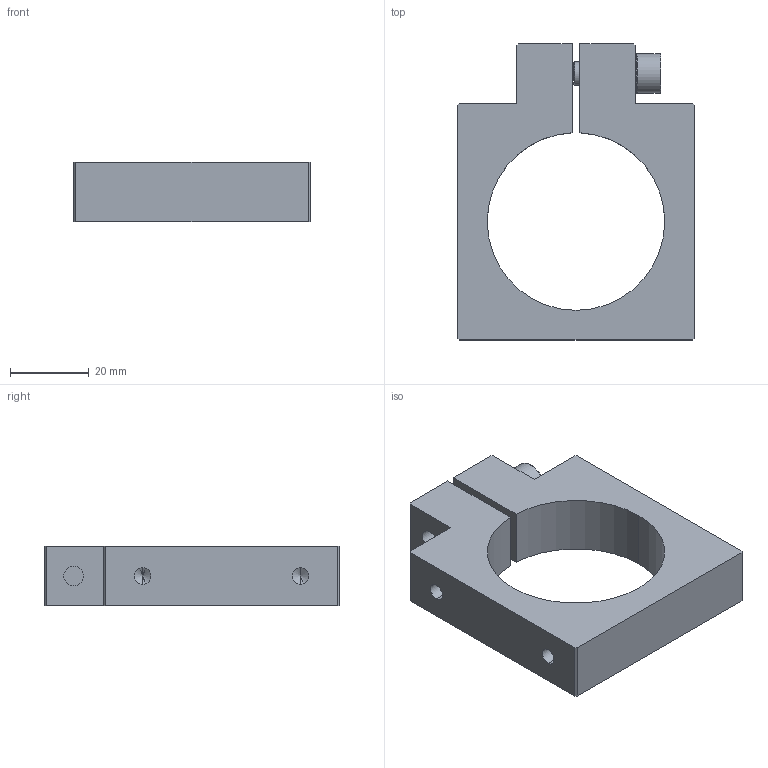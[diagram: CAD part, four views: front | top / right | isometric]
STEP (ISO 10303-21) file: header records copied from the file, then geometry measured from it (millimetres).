
FILE_DESCRIPTION (( 'STEP AP214' ), '1' );
FILE_NAME ('SCE4-NR20T.STEP', '2023-01-13T08:37:04', ( 'Windows User' ), ( 'P R C' ), 'SwSTEP 2.0', 'SolidWorks 2019', '' );
FILE_SCHEMA (( 'AUTOMOTIVE_DESIGN' ));
Length unit declared in the file: millimetre
Products named in the file (4): SCE4-NR20; SCE4-NR20T; PTC-M6L16; PTS-M6
Assembly tree (3 placements, depth 2):
  SCE4-NR20T
    SCE4-NR20
    PTC-M6L16
    PTS-M6
Bounding box: 60 x 75 x 15 mm (x, y, z)
Volume: 35707.3 mm3; surface area: 13387.5 mm2
Topology: 3 solids, 3 shells, 226 faces, 650 edges, 426 vertices
Faces by surface type: plane 189, cylinder 23, cone 14
Entity records: 7670 total; most frequent: DIRECTION 1322, CARTESIAN_POINT 1300, ORIENTED_EDGE 1284, EDGE_CURVE 642, AXIS2_PLACEMENT_3D 448, VECTOR 426, VERTEX_POINT 426, LINE 426
